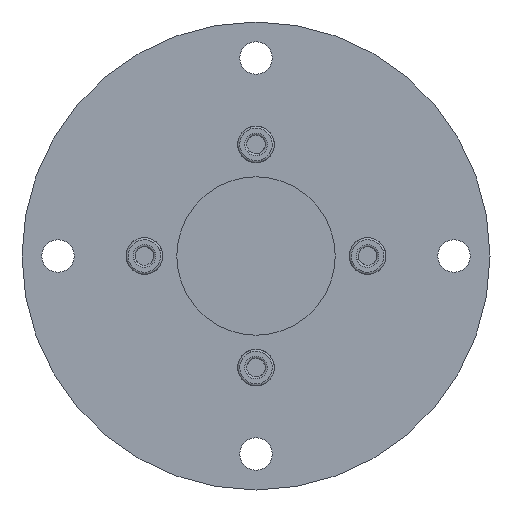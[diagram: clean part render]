
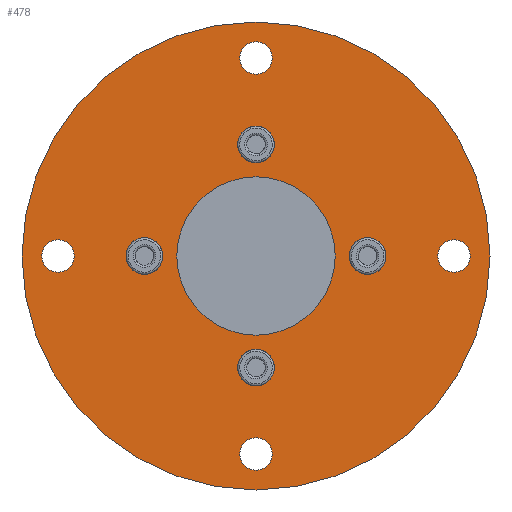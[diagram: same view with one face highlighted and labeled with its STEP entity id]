
A CAD part, front view. The second image highlights one B-rep face of the part: STEP entity #478.
In plain terms, the highlighted planar face has unit normal (0, -1, 0).
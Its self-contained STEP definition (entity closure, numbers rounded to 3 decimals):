
#18=CARTESIAN_POINT('',(0.0,3.0,-25.9));
#19=VERTEX_POINT('',#18);
#26=CARTESIAN_POINT('',(-5.1,3.0,-31.0));
#27=VERTEX_POINT('',#26);
#28=CARTESIAN_POINT('',(0.0,3.0,-31.0));
#29=DIRECTION('',(0.0,-1.0,-0.0));
#30=DIRECTION('',(-1.0,0.0,-0.0));
#31=AXIS2_PLACEMENT_3D('',#28,#29,#30);
#32=CIRCLE('',#31,5.1);
#33=EDGE_CURVE('no 917',#19,#27,#32,.T.);
#35=CARTESIAN_POINT('',(0.0,3.0,-36.1));
#36=VERTEX_POINT('',#35);
#37=CARTESIAN_POINT('',(0.0,3.0,-31.0));
#38=DIRECTION('',(0.0,-1.0,-0.0));
#39=DIRECTION('',(-1.0,0.0,-0.0));
#40=AXIS2_PLACEMENT_3D('',#37,#38,#39);
#41=CIRCLE('',#40,5.1);
#42=EDGE_CURVE('no 923',#27,#36,#41,.T.);
#78=CARTESIAN_POINT('',(-31.0,3.0,5.1));
#79=VERTEX_POINT('',#78);
#86=CARTESIAN_POINT('',(-31.0,3.0,-5.1));
#87=VERTEX_POINT('',#86);
#88=CARTESIAN_POINT('',(-31.0,3.0,-0.0));
#89=DIRECTION('',(0.0,-1.0,0.0));
#90=DIRECTION('',(-0.0,0.0,1.0));
#91=AXIS2_PLACEMENT_3D('',#88,#89,#90);
#92=CIRCLE('',#91,5.1);
#93=EDGE_CURVE('no 957',#79,#87,#92,.T.);
#129=CARTESIAN_POINT('',(-0.0,3.0,36.1));
#130=VERTEX_POINT('',#129);
#137=CARTESIAN_POINT('',(-0.0,3.0,25.9));
#138=VERTEX_POINT('',#137);
#139=CARTESIAN_POINT('',(-0.0,3.0,31.0));
#140=DIRECTION('',(0.0,-1.0,0.0));
#141=DIRECTION('',(1.0,0.0,0.0));
#142=AXIS2_PLACEMENT_3D('',#139,#140,#141);
#143=CIRCLE('',#142,5.1);
#144=EDGE_CURVE('no 991',#130,#138,#143,.T.);
#180=CARTESIAN_POINT('',(31.0,3.0,5.1));
#181=VERTEX_POINT('',#180);
#188=CARTESIAN_POINT('',(31.0,3.0,-5.1));
#189=VERTEX_POINT('',#188);
#190=CARTESIAN_POINT('',(31.0,3.0,0.0));
#191=DIRECTION('',(0.0,-1.0,0.0));
#192=DIRECTION('',(0.0,0.0,-1.0));
#193=AXIS2_PLACEMENT_3D('',#190,#191,#192);
#194=CIRCLE('',#193,5.1);
#195=EDGE_CURVE('no 1025',#181,#189,#194,.T.);
#273=CARTESIAN_POINT('',(0.0,3.0,65.0));
#274=VERTEX_POINT('',#273);
#290=CARTESIAN_POINT('',(0.0,3.0,-65.0));
#291=VERTEX_POINT('',#290);
#298=CARTESIAN_POINT('',(0.0,3.0,0.0));
#299=DIRECTION('',(0.0,-1.0,0.0));
#300=DIRECTION('',(0.0,0.0,-1.0));
#301=AXIS2_PLACEMENT_3D('',#298,#299,#300);
#302=CIRCLE('',#301,65.0);
#303=EDGE_CURVE('no 1097',#274,#291,#302,.T.);
#313=ORIENTED_EDGE('',*,*,#33,.F.);
#314=CARTESIAN_POINT('',(0.0,3.0,-31.0));
#315=DIRECTION('',(0.0,-1.0,-0.0));
#316=DIRECTION('',(-1.0,0.0,-0.0));
#317=AXIS2_PLACEMENT_3D('',#314,#315,#316);
#318=CIRCLE('',#317,5.1);
#319=EDGE_CURVE('no 1106',#36,#19,#318,.T.);
#320=ORIENTED_EDGE('',*,*,#319,.F.);
#321=ORIENTED_EDGE('',*,*,#42,.F.);
#322=EDGE_LOOP('',(#313,#320,#321));
#323=FACE_BOUND('',#322,.T.);
#324=CARTESIAN_POINT('',(-31.0,3.0,-0.0));
#325=DIRECTION('',(0.0,-1.0,0.0));
#326=DIRECTION('',(-0.0,0.0,1.0));
#327=AXIS2_PLACEMENT_3D('',#324,#325,#326);
#328=CIRCLE('',#327,5.1);
#329=EDGE_CURVE('no 1113',#87,#79,#328,.T.);
#330=ORIENTED_EDGE('',*,*,#329,.F.);
#331=ORIENTED_EDGE('',*,*,#93,.F.);
#332=EDGE_LOOP('',(#330,#331));
#333=FACE_BOUND('',#332,.T.);
#334=CARTESIAN_POINT('',(5.1,3.0,31.0));
#335=VERTEX_POINT('',#334);
#336=CARTESIAN_POINT('',(-0.0,3.0,31.0));
#337=DIRECTION('',(0.0,-1.0,0.0));
#338=DIRECTION('',(1.0,0.0,0.0));
#339=AXIS2_PLACEMENT_3D('',#336,#337,#338);
#340=CIRCLE('',#339,5.1);
#341=EDGE_CURVE('no 1122',#138,#335,#340,.T.);
#342=ORIENTED_EDGE('',*,*,#341,.F.);
#343=ORIENTED_EDGE('',*,*,#144,.F.);
#344=CARTESIAN_POINT('',(-0.0,3.0,31.0));
#345=DIRECTION('',(0.0,-1.0,0.0));
#346=DIRECTION('',(1.0,0.0,0.0));
#347=AXIS2_PLACEMENT_3D('',#344,#345,#346);
#348=CIRCLE('',#347,5.1);
#349=EDGE_CURVE('no 1128',#335,#130,#348,.T.);
#350=ORIENTED_EDGE('',*,*,#349,.F.);
#351=EDGE_LOOP('',(#342,#343,#350));
#352=FACE_BOUND('',#351,.T.);
#353=ORIENTED_EDGE('',*,*,#195,.F.);
#354=CARTESIAN_POINT('',(31.0,3.0,0.0));
#355=DIRECTION('',(0.0,-1.0,0.0));
#356=DIRECTION('',(0.0,0.0,-1.0));
#357=AXIS2_PLACEMENT_3D('',#354,#355,#356);
#358=CIRCLE('',#357,5.1);
#359=EDGE_CURVE('no 1135',#189,#181,#358,.T.);
#360=ORIENTED_EDGE('',*,*,#359,.F.);
#361=EDGE_LOOP('',(#353,#360));
#362=FACE_BOUND('',#361,.T.);
#363=CARTESIAN_POINT('',(0.0,3.0,-50.5));
#364=VERTEX_POINT('',#363);
#365=CARTESIAN_POINT('',(0.0,3.0,-59.5));
#366=VERTEX_POINT('',#365);
#367=CARTESIAN_POINT('',(0.0,3.0,-55.0));
#368=DIRECTION('',(0.0,-1.0,0.0));
#369=DIRECTION('',(0.0,0.0,-1.0));
#370=AXIS2_PLACEMENT_3D('',#367,#368,#369);
#371=CIRCLE('',#370,4.5);
#372=EDGE_CURVE('no 1144',#364,#366,#371,.T.);
#373=ORIENTED_EDGE('',*,*,#372,.F.);
#374=CARTESIAN_POINT('',(0.0,3.0,-55.0));
#375=DIRECTION('',(0.0,-1.0,0.0));
#376=DIRECTION('',(0.0,0.0,-1.0));
#377=AXIS2_PLACEMENT_3D('',#374,#375,#376);
#378=CIRCLE('',#377,4.5);
#379=EDGE_CURVE('no 1148',#366,#364,#378,.T.);
#380=ORIENTED_EDGE('',*,*,#379,.F.);
#381=EDGE_LOOP('',(#373,#380));
#382=FACE_BOUND('',#381,.T.);
#383=CARTESIAN_POINT('',(-55.0,3.0,4.5));
#384=VERTEX_POINT('',#383);
#385=CARTESIAN_POINT('',(-55.0,3.0,-4.5));
#386=VERTEX_POINT('',#385);
#387=CARTESIAN_POINT('',(-55.0,3.0,-0.0));
#388=DIRECTION('',(0.0,-1.0,0.0));
#389=DIRECTION('',(0.0,0.0,-1.0));
#390=AXIS2_PLACEMENT_3D('',#387,#388,#389);
#391=CIRCLE('',#390,4.5);
#392=EDGE_CURVE('no 1157',#384,#386,#391,.T.);
#393=ORIENTED_EDGE('',*,*,#392,.F.);
#394=CARTESIAN_POINT('',(-55.0,3.0,-0.0));
#395=DIRECTION('',(0.0,-1.0,0.0));
#396=DIRECTION('',(0.0,0.0,-1.0));
#397=AXIS2_PLACEMENT_3D('',#394,#395,#396);
#398=CIRCLE('',#397,4.5);
#399=EDGE_CURVE('no 1161',#386,#384,#398,.T.);
#400=ORIENTED_EDGE('',*,*,#399,.F.);
#401=EDGE_LOOP('',(#393,#400));
#402=FACE_BOUND('',#401,.T.);
#403=CARTESIAN_POINT('',(-0.0,3.0,59.5));
#404=VERTEX_POINT('',#403);
#405=CARTESIAN_POINT('',(-0.0,3.0,50.5));
#406=VERTEX_POINT('',#405);
#407=CARTESIAN_POINT('',(-0.0,3.0,55.0));
#408=DIRECTION('',(0.0,-1.0,0.0));
#409=DIRECTION('',(0.0,0.0,-1.0));
#410=AXIS2_PLACEMENT_3D('',#407,#408,#409);
#411=CIRCLE('',#410,4.5);
#412=EDGE_CURVE('no 1170',#404,#406,#411,.T.);
#413=ORIENTED_EDGE('',*,*,#412,.F.);
#414=CARTESIAN_POINT('',(-0.0,3.0,55.0));
#415=DIRECTION('',(0.0,-1.0,0.0));
#416=DIRECTION('',(0.0,0.0,-1.0));
#417=AXIS2_PLACEMENT_3D('',#414,#415,#416);
#418=CIRCLE('',#417,4.5);
#419=EDGE_CURVE('no 1174',#406,#404,#418,.T.);
#420=ORIENTED_EDGE('',*,*,#419,.F.);
#421=EDGE_LOOP('',(#413,#420));
#422=FACE_BOUND('',#421,.T.);
#423=CARTESIAN_POINT('',(55.0,3.0,4.5));
#424=VERTEX_POINT('',#423);
#425=CARTESIAN_POINT('',(55.0,3.0,-4.5));
#426=VERTEX_POINT('',#425);
#427=CARTESIAN_POINT('',(55.0,3.0,-0.0));
#428=DIRECTION('',(0.0,-1.0,0.0));
#429=DIRECTION('',(0.0,0.0,-1.0));
#430=AXIS2_PLACEMENT_3D('',#427,#428,#429);
#431=CIRCLE('',#430,4.5);
#432=EDGE_CURVE('no 1183',#424,#426,#431,.T.);
#433=ORIENTED_EDGE('',*,*,#432,.F.);
#434=CARTESIAN_POINT('',(55.0,3.0,-0.0));
#435=DIRECTION('',(0.0,-1.0,0.0));
#436=DIRECTION('',(0.0,0.0,-1.0));
#437=AXIS2_PLACEMENT_3D('',#434,#435,#436);
#438=CIRCLE('',#437,4.5);
#439=EDGE_CURVE('no 1187',#426,#424,#438,.T.);
#440=ORIENTED_EDGE('',*,*,#439,.F.);
#441=EDGE_LOOP('',(#433,#440));
#442=FACE_BOUND('',#441,.T.);
#443=CARTESIAN_POINT('',(0.0,3.0,22.0));
#444=VERTEX_POINT('',#443);
#445=CARTESIAN_POINT('',(0.0,3.0,-22.0));
#446=VERTEX_POINT('',#445);
#447=CARTESIAN_POINT('',(0.0,3.0,0.0));
#448=DIRECTION('',(0.0,-1.0,0.0));
#449=DIRECTION('',(0.0,0.0,-1.0));
#450=AXIS2_PLACEMENT_3D('',#447,#448,#449);
#451=CIRCLE('',#450,22.0);
#452=EDGE_CURVE('no 1196',#444,#446,#451,.T.);
#453=ORIENTED_EDGE('',*,*,#452,.F.);
#454=CARTESIAN_POINT('',(0.0,3.0,0.0));
#455=DIRECTION('',(0.0,-1.0,0.0));
#456=DIRECTION('',(0.0,0.0,-1.0));
#457=AXIS2_PLACEMENT_3D('',#454,#455,#456);
#458=CIRCLE('',#457,22.0);
#459=EDGE_CURVE('no 1200',#446,#444,#458,.T.);
#460=ORIENTED_EDGE('',*,*,#459,.F.);
#461=EDGE_LOOP('',(#453,#460));
#462=FACE_BOUND('',#461,.T.);
#463=CARTESIAN_POINT('',(0.0,3.0,0.0));
#464=DIRECTION('',(0.0,-1.0,0.0));
#465=DIRECTION('',(0.0,0.0,-1.0));
#466=AXIS2_PLACEMENT_3D('',#463,#464,#465);
#467=CIRCLE('',#466,65.0);
#468=EDGE_CURVE('no 1205',#291,#274,#467,.T.);
#469=ORIENTED_EDGE('',*,*,#468,.T.);
#470=ORIENTED_EDGE('',*,*,#303,.T.);
#471=EDGE_LOOP('',(#469,#470));
#472=FACE_OUTER_BOUND('',#471,.T.);
#473=CARTESIAN_POINT('',(0.0,3.0,0.0));
#474=DIRECTION('',(0.0,-1.0,0.0));
#475=DIRECTION('',(0.0,0.0,-1.0));
#476=AXIS2_PLACEMENT_3D('',#473,#474,#475);
#477=PLANE('',#476);
#478=ADVANCED_FACE('no 1099',(#323,#333,#352,#362,#382,#402,#422,#442,#462,#472),#477,.T.);
